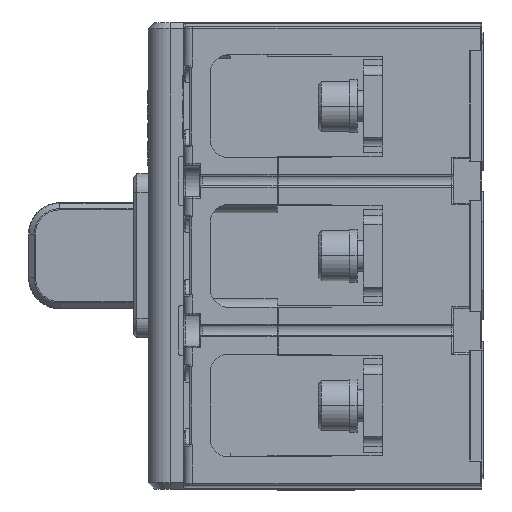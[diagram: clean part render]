
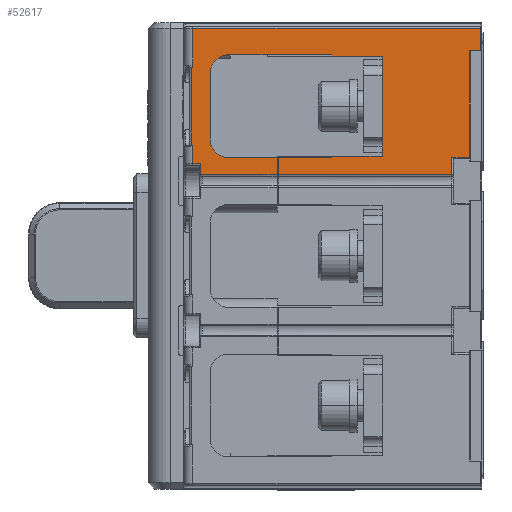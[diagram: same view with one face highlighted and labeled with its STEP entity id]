
A CAD part, left-side view. The second image highlights one B-rep face of the part: STEP entity #52617.
In plain terms, the highlighted planar face has unit normal (-1, 0, 0).
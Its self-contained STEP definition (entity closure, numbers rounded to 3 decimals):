
#10445=CARTESIAN_POINT('',(-128.5,36.3,58.5));
#10446=DIRECTION('',(-1.,0.,0.));
#10447=DIRECTION('',(0.,0.,1.));
#10448=AXIS2_PLACEMENT_3D('',#10445,#10446,#10447);
#10450=CARTESIAN_POINT('',(-128.5,36.3,37.5));
#10451=DIRECTION('',(-1.,0.,0.));
#10452=DIRECTION('',(0.,1.,0.));
#10453=AXIS2_PLACEMENT_3D('',#10450,#10451,#10452);
#10455=DIRECTION('',(0.,0.,1.));
#10456=VECTOR('',#10455,12.5);
#10457=CARTESIAN_POINT('',(-128.5,47.8,60.5));
#10458=LINE('',#10457,#10456);
#10459=DIRECTION('',(0.,-1.,0.));
#10460=VECTOR('',#10459,92.2);
#10461=CARTESIAN_POINT('',(-128.5,47.8,73.));
#10462=LINE('',#10461,#10460);
#10467=DIRECTION('',(0.,-1.,0.));
#10468=VECTOR('',#10467,33.);
#10469=CARTESIAN_POINT('',(-128.5,36.3,64.5));
#10470=LINE('',#10469,#10468);
#10645=DIRECTION('',(0.,0.,-1.));
#10646=VECTOR('',#10645,32.);
#10647=CARTESIAN_POINT('',(-128.5,-12.9,64.));
#10648=LINE('',#10647,#10646);
#10687=DIRECTION('',(0.,-1.,0.));
#10688=VECTOR('',#10687,16.2);
#10689=CARTESIAN_POINT('',(-128.5,3.3,64.));
#10690=LINE('',#10689,#10688);
#10699=DIRECTION('',(0.,0.,-1.));
#10700=VECTOR('',#10699,0.5);
#10701=CARTESIAN_POINT('',(-128.5,3.3,64.5));
#10702=LINE('',#10701,#10700);
#10711=DIRECTION('',(0.,1.,0.));
#10712=VECTOR('',#10711,16.2);
#10713=CARTESIAN_POINT('',(-128.5,-12.9,32.));
#10714=LINE('',#10713,#10712);
#10735=DIRECTION('',(0.,0.,-1.));
#10736=VECTOR('',#10735,0.5);
#10737=CARTESIAN_POINT('',(-128.5,3.3,32.));
#10738=LINE('',#10737,#10736);
#10751=DIRECTION('',(0.,1.,0.));
#10752=VECTOR('',#10751,17.);
#10753=CARTESIAN_POINT('',(-128.5,3.3,31.5));
#10754=LINE('',#10753,#10752);
#10764=DIRECTION('',(0.,1.,0.));
#10765=VECTOR('',#10764,15.5);
#10766=CARTESIAN_POINT('',(-128.5,20.8,31.5));
#10767=LINE('',#10766,#10765);
#10856=DIRECTION('',(0.,0.,-1.));
#10857=VECTOR('',#10856,5.5);
#10858=CARTESIAN_POINT('',(-128.5,20.3,31.5));
#10859=LINE('',#10858,#10857);
#10914=DIRECTION('',(0.,0.,1.));
#10915=VECTOR('',#10914,5.5);
#10916=CARTESIAN_POINT('',(-128.5,20.8,26.));
#10917=LINE('',#10916,#10915);
#10942=DIRECTION('',(0.,-1.,0.));
#10943=VECTOR('',#10942,55.6);
#10944=CARTESIAN_POINT('',(-128.5,20.3,26.));
#10945=LINE('',#10944,#10943);
#10951=DIRECTION('',(0.,0.,1.));
#10952=VECTOR('',#10951,5.6);
#10953=CARTESIAN_POINT('',(-128.5,-35.3,26.));
#10954=LINE('',#10953,#10952);
#10960=DIRECTION('',(0.,-1.,0.));
#10961=VECTOR('',#10960,5.5);
#10962=CARTESIAN_POINT('',(-128.5,-35.3,31.6));
#10963=LINE('',#10962,#10961);
#10985=DIRECTION('',(0.,0.,1.));
#10986=VECTOR('',#10985,34.2);
#10987=CARTESIAN_POINT('',(-128.5,-40.8,31.6));
#10988=LINE('',#10987,#10986);
#11082=DIRECTION('',(0.,-1.,0.));
#11083=VECTOR('',#11082,3.6);
#11084=CARTESIAN_POINT('',(-128.5,-40.8,65.8));
#11085=LINE('',#11084,#11083);
#11099=DIRECTION('',(0.,0.,1.));
#11100=VECTOR('',#11099,7.2);
#11101=CARTESIAN_POINT('',(-128.5,-44.4,65.8));
#11102=LINE('',#11101,#11100);
#37203=DIRECTION('',(0.,0.,-1.));
#37204=VECTOR('',#37203,3.5);
#37205=CARTESIAN_POINT('',(-128.5,45.3,29.5));
#37206=LINE('',#37205,#37204);
#37216=DIRECTION('',(0.,-1.,0.));
#37217=VECTOR('',#37216,2.5);
#37218=CARTESIAN_POINT('',(-128.5,47.8,29.5));
#37219=LINE('',#37218,#37217);
#37220=CARTESIAN_POINT('',(-128.5,45.3,29.5));
#37235=DIRECTION('',(0.,0.,-1.));
#37236=VECTOR('',#37235,6.);
#37237=CARTESIAN_POINT('',(-128.5,47.8,35.5));
#37238=LINE('',#37237,#37236);
#37357=DIRECTION('',(0.,0.,-1.));
#37358=VECTOR('',#37357,25.);
#37359=CARTESIAN_POINT('',(-128.5,48.3,60.5));
#37360=LINE('',#37359,#37358);
#37366=DIRECTION('',(0.,-1.,0.));
#37367=VECTOR('',#37366,0.5);
#37368=CARTESIAN_POINT('',(-128.5,48.3,35.5));
#37369=LINE('',#37368,#37367);
#37385=DIRECTION('',(0.,1.,0.));
#37386=VECTOR('',#37385,0.5);
#37387=CARTESIAN_POINT('',(-128.5,47.8,60.5));
#37388=LINE('',#37387,#37386);
#37468=DIRECTION('',(0.,0.,1.));
#37469=VECTOR('',#37468,21.);
#37470=CARTESIAN_POINT('',(-128.5,42.3,37.5));
#37471=LINE('',#37470,#37469);
#37515=DIRECTION('',(0.,-1.,0.));
#37516=VECTOR('',#37515,24.5);
#37517=CARTESIAN_POINT('',(-128.5,45.3,26.));
#37518=LINE('',#37517,#37516);
#42881=CARTESIAN_POINT('',(-128.5,47.8,60.5));
#42882=CARTESIAN_POINT('',(-128.5,47.8,73.));
#42883=VERTEX_POINT('',#42881);
#42884=VERTEX_POINT('',#42882);
#42895=CARTESIAN_POINT('',(-128.5,-44.4,73.));
#42896=VERTEX_POINT('',#42895);
#42897=CARTESIAN_POINT('',(-128.5,36.3,64.5));
#42898=CARTESIAN_POINT('',(-128.5,3.3,64.5));
#42899=VERTEX_POINT('',#42897);
#42900=VERTEX_POINT('',#42898);
#42901=CARTESIAN_POINT('',(-128.5,42.3,58.5));
#42902=VERTEX_POINT('',#42901);
#42903=CARTESIAN_POINT('',(-128.5,42.3,37.5));
#42904=VERTEX_POINT('',#42903);
#42905=CARTESIAN_POINT('',(-128.5,36.3,31.5));
#42906=VERTEX_POINT('',#42905);
#42907=CARTESIAN_POINT('',(-128.5,48.3,35.5));
#42908=CARTESIAN_POINT('',(-128.5,47.8,35.5));
#42909=VERTEX_POINT('',#42907);
#42910=VERTEX_POINT('',#42908);
#42911=CARTESIAN_POINT('',(-128.5,3.3,31.5));
#42912=CARTESIAN_POINT('',(-128.5,20.3,31.5));
#42913=VERTEX_POINT('',#42911);
#42914=VERTEX_POINT('',#42912);
#42915=CARTESIAN_POINT('',(-128.5,-12.9,32.));
#42916=CARTESIAN_POINT('',(-128.5,3.3,32.));
#42917=VERTEX_POINT('',#42915);
#42918=VERTEX_POINT('',#42916);
#42965=CARTESIAN_POINT('',(-128.5,48.3,60.5));
#42966=VERTEX_POINT('',#42965);
#42971=CARTESIAN_POINT('',(-128.5,47.8,29.5));
#42972=VERTEX_POINT('',#42971);
#43018=VERTEX_POINT('',#37220);
#43019=CARTESIAN_POINT('',(-128.5,45.3,26.));
#43020=VERTEX_POINT('',#43019);
#43026=CARTESIAN_POINT('',(-128.5,20.8,26.));
#43027=VERTEX_POINT('',#43026);
#43050=CARTESIAN_POINT('',(-128.5,20.8,31.5));
#43051=VERTEX_POINT('',#43050);
#43056=CARTESIAN_POINT('',(-128.5,20.3,26.));
#43057=VERTEX_POINT('',#43056);
#43086=CARTESIAN_POINT('',(-128.5,-12.9,64.));
#43087=VERTEX_POINT('',#43086);
#44012=CARTESIAN_POINT('',(-128.5,-35.3,26.));
#44013=VERTEX_POINT('',#44012);
#44018=CARTESIAN_POINT('',(-128.5,-35.3,31.6));
#44019=VERTEX_POINT('',#44018);
#44022=CARTESIAN_POINT('',(-128.5,-40.8,31.6));
#44023=VERTEX_POINT('',#44022);
#44030=CARTESIAN_POINT('',(-128.5,-40.8,65.8));
#44031=VERTEX_POINT('',#44030);
#45173=CARTESIAN_POINT('',(-128.5,-44.4,65.8));
#45174=VERTEX_POINT('',#45173);
#51141=CARTESIAN_POINT('',(-128.5,3.3,64.));
#51142=VERTEX_POINT('',#51141);
#52556=CARTESIAN_POINT('',(-128.5,1.95,49.5));
#52557=DIRECTION('',(1.,0.,0.));
#52558=DIRECTION('',(0.,-1.,0.));
#52559=AXIS2_PLACEMENT_3D('',#52556,#52557,#52558);
#52560=PLANE('',#52559);
#52562=ORIENTED_EDGE('',*,*,#52561,.F.);
#52564=ORIENTED_EDGE('',*,*,#52563,.T.);
#52566=ORIENTED_EDGE('',*,*,#52565,.F.);
#52568=ORIENTED_EDGE('',*,*,#52567,.T.);
#52570=ORIENTED_EDGE('',*,*,#52569,.F.);
#52572=ORIENTED_EDGE('',*,*,#52571,.F.);
#52574=ORIENTED_EDGE('',*,*,#52573,.F.);
#52576=ORIENTED_EDGE('',*,*,#52575,.F.);
#52578=ORIENTED_EDGE('',*,*,#52577,.F.);
#52580=ORIENTED_EDGE('',*,*,#52579,.F.);
#52582=ORIENTED_EDGE('',*,*,#52581,.F.);
#52584=ORIENTED_EDGE('',*,*,#52583,.F.);
#52586=ORIENTED_EDGE('',*,*,#52585,.F.);
#52587=ORIENTED_EDGE('',*,*,#52429,.T.);
#52588=ORIENTED_EDGE('',*,*,#52546,.T.);
#52590=ORIENTED_EDGE('',*,*,#52589,.F.);
#52592=ORIENTED_EDGE('',*,*,#52591,.F.);
#52594=ORIENTED_EDGE('',*,*,#52593,.F.);
#52596=ORIENTED_EDGE('',*,*,#52595,.F.);
#52598=ORIENTED_EDGE('',*,*,#52597,.F.);
#52600=ORIENTED_EDGE('',*,*,#52599,.F.);
#52602=ORIENTED_EDGE('',*,*,#52601,.F.);
#52604=ORIENTED_EDGE('',*,*,#52603,.F.);
#52606=ORIENTED_EDGE('',*,*,#52605,.F.);
#52608=ORIENTED_EDGE('',*,*,#52607,.F.);
#52610=ORIENTED_EDGE('',*,*,#52609,.F.);
#52612=ORIENTED_EDGE('',*,*,#52611,.F.);
#52614=ORIENTED_EDGE('',*,*,#52613,.F.);
#52615=EDGE_LOOP('',(#52562,#52564,#52566,#52568,#52570,#52572,#52574,#52576,
#52578,#52580,#52582,#52584,#52586,#52587,#52588,#52590,#52592,#52594,#52596,
#52598,#52600,#52602,#52604,#52606,#52608,#52610,#52612,#52614));
#52616=FACE_OUTER_BOUND('',#52615,.F.);
#52617=ADVANCED_FACE('',(#52616),#52560,.F.);
#10449=CIRCLE('',#10448,6.);
#10454=CIRCLE('',#10453,6.);
#52429=EDGE_CURVE('',#42883,#42884,#10458,.T.);
#52546=EDGE_CURVE('',#42884,#42896,#10462,.T.);
#52561=EDGE_CURVE('',#42899,#42900,#10470,.T.);
#52563=EDGE_CURVE('',#42899,#42902,#10449,.T.);
#52565=EDGE_CURVE('',#42904,#42902,#37471,.T.);
#52567=EDGE_CURVE('',#42904,#42906,#10454,.T.);
#52569=EDGE_CURVE('',#43051,#42906,#10767,.T.);
#52571=EDGE_CURVE('',#43027,#43051,#10917,.T.);
#52573=EDGE_CURVE('',#43020,#43027,#37518,.T.);
#52575=EDGE_CURVE('',#43018,#43020,#37206,.T.);
#52577=EDGE_CURVE('',#42972,#43018,#37219,.T.);
#52579=EDGE_CURVE('',#42910,#42972,#37238,.T.);
#52581=EDGE_CURVE('',#42909,#42910,#37369,.T.);
#52583=EDGE_CURVE('',#42966,#42909,#37360,.T.);
#52585=EDGE_CURVE('',#42883,#42966,#37388,.T.);
#52589=EDGE_CURVE('',#45174,#42896,#11102,.T.);
#52591=EDGE_CURVE('',#44031,#45174,#11085,.T.);
#52593=EDGE_CURVE('',#44023,#44031,#10988,.T.);
#52595=EDGE_CURVE('',#44019,#44023,#10963,.T.);
#52597=EDGE_CURVE('',#44013,#44019,#10954,.T.);
#52599=EDGE_CURVE('',#43057,#44013,#10945,.T.);
#52601=EDGE_CURVE('',#42914,#43057,#10859,.T.);
#52603=EDGE_CURVE('',#42913,#42914,#10754,.T.);
#52605=EDGE_CURVE('',#42918,#42913,#10738,.T.);
#52607=EDGE_CURVE('',#42917,#42918,#10714,.T.);
#52609=EDGE_CURVE('',#43087,#42917,#10648,.T.);
#52611=EDGE_CURVE('',#51142,#43087,#10690,.T.);
#52613=EDGE_CURVE('',#42900,#51142,#10702,.T.);
